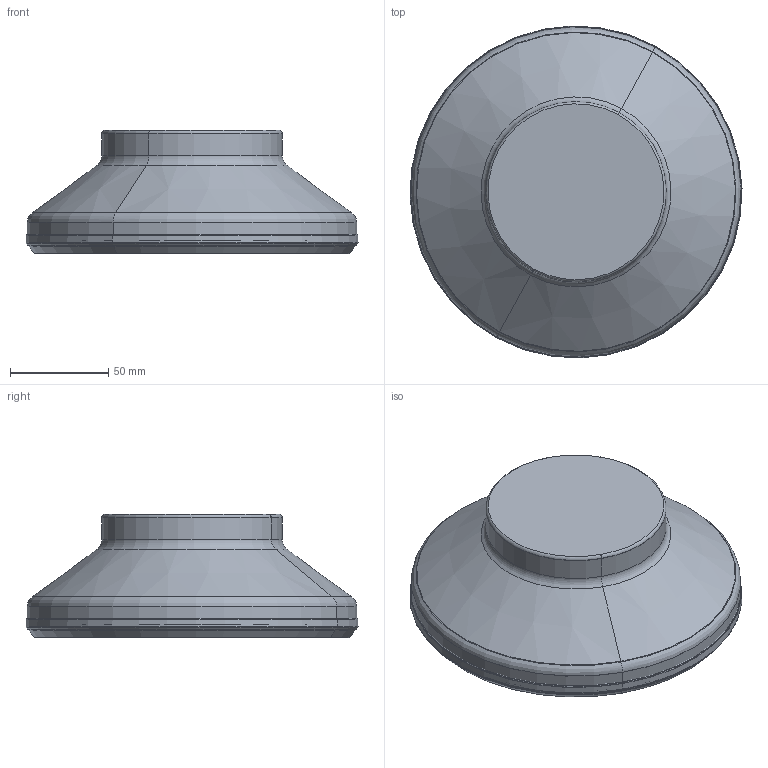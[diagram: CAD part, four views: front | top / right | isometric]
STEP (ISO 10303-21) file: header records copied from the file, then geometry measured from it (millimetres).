
FILE_DESCRIPTION(('CATIA V5 STEP Exchange'),'2;1');
FILE_NAME('I:\isr\design\admin8\users\giries_a\3106533.stp','2012-11-04T05:15:57+00:00',('none'),('none'),'CATIA Version 5 Release 21 SP 3 (IN-10)','CATIA V5 STEP AP214','none');
FILE_SCHEMA(('AUTOMOTIVE_DESIGN { 1 0 10303 214 1 1 1 1 }'));
Length unit declared in the file: millimetre
Products named in the file (1): 61058806_0 Assembly IQ845 FSY D160-15-40-R07
Bounding box: 169.35 x 169.35 x 63 mm (x, y, z)
Volume: 638717.4 mm3; surface area: 86328.4 mm2
Topology: 2 solids, 2 shells, 99 faces, 196 edges, 100 vertices
Faces by surface type: cone 54, torus 38, cylinder 4, plane 3
Entity records: 2165 total; most frequent: ORIENTED_EDGE 392, CARTESIAN_POINT 348, DIRECTION 298, EDGE_CURVE 196, AXIS2_PLACEMENT_3D 190, CIRCLE 138, EDGE_LOOP 100, VERTEX_POINT 100
